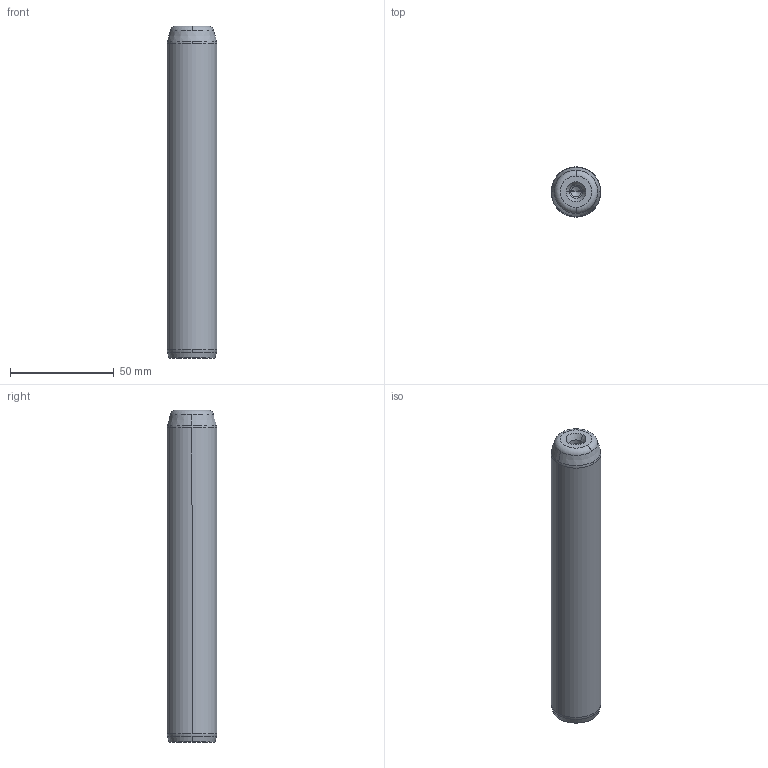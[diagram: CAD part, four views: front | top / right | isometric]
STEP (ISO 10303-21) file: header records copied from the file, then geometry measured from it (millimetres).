
FILE_DESCRIPTION((''),'2;1');
FILE_NAME('P10_024_160.stp','2008-12-23T14:35:17',(''),(''),'Mechanical Desktop 2009','Mechanical Desktop 2009',', , ');
FILE_SCHEMA(('CONFIG_CONTROL_DESIGN'));
Length unit declared in the file: millimetre
Products named in the file (5): Product; ProductAA; blmdl1; ProductA; blmdl1A
Assembly tree (2 placements, depth 3):
  Product
    ProductAA
      blmdl1
  ProductA
  blmdl1A
Bounding box: 24 x 24 x 160 mm (x, y, z)
Volume: 71049 mm3; surface area: 13000.5 mm2
Topology: 1 solids, 1 shells, 26 faces, 66 edges, 41 vertices
Faces by surface type: cone 10, torus 8, cylinder 6, plane 2
Entity records: 1012 total; most frequent: DIRECTION 170, CARTESIAN_POINT 134, ORIENTED_EDGE 128, AXIS2_PLACEMENT_3D 77, EDGE_CURVE 64, CIRCLE 48, VERTEX_POINT 41, EDGE_LOOP 27
